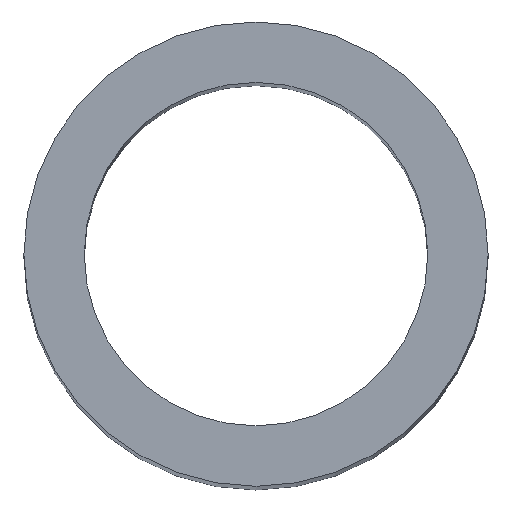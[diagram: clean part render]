
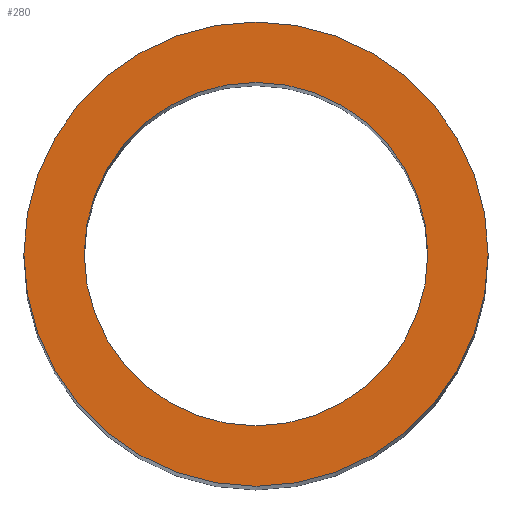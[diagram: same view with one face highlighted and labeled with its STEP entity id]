
A CAD part, top view. The second image highlights one B-rep face of the part: STEP entity #280.
In plain terms, the highlighted planar face has unit normal (0, 0, 1).
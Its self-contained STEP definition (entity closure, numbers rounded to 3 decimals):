
#1 = PLANE ( 'NONE',  #2 ) ;
#2 = AXIS2_PLACEMENT_3D ( 'NONE', #63, #62, #61 ) ;
#3 = FACE_OUTER_BOUND ( 'NONE', #272, .T. ) ;
#4 = FACE_BOUND ( 'NONE', #281, .T. ) ;
#5 = DIRECTION ( 'NONE',  ( 1., 0., 0. ) ) ;
#6 = DIRECTION ( 'NONE',  ( 0., 0., 1. ) ) ;
#7 = CARTESIAN_POINT ( 'NONE',  ( 0., 0., 0. ) ) ;
#8 = AXIS2_PLACEMENT_3D ( 'NONE', #7, #6, #5 ) ;
#9 = CIRCLE ( 'NONE', #8, 16.3 ) ;
#22 = DIRECTION ( 'NONE',  ( 1., 0., 0. ) ) ;
#23 = DIRECTION ( 'NONE',  ( 0., 0., 1. ) ) ;
#24 = CARTESIAN_POINT ( 'NONE',  ( 0., 0., 0. ) ) ;
#25 = AXIS2_PLACEMENT_3D ( 'NONE', #24, #23, #22 ) ;
#26 = CIRCLE ( 'NONE', #25, 16.3 ) ;
#27 = CARTESIAN_POINT ( 'NONE',  ( 16.3, 0., 0. ) ) ;
#61 = DIRECTION ( 'NONE',  ( -1., 0., 0. ) ) ;
#62 = DIRECTION ( 'NONE',  ( 0., 0., -1. ) ) ;
#63 = CARTESIAN_POINT ( 'NONE',  ( 0., 16.3, 0. ) ) ;
#65 = DIRECTION ( 'NONE',  ( 0., 1., 0. ) ) ;
#66 = DIRECTION ( 'NONE',  ( 0., 0., -1. ) ) ;
#67 = CARTESIAN_POINT ( 'NONE',  ( 0., 0., 0. ) ) ;
#68 = AXIS2_PLACEMENT_3D ( 'NONE', #67, #66, #65 ) ;
#69 = CIRCLE ( 'NONE', #68, 12.058 ) ;
#239 = VERTEX_POINT ( 'NONE', #366 ) ;
#240 = VERTEX_POINT ( 'NONE', #373 ) ;
#247 = VERTEX_POINT ( 'NONE', #395 ) ;
#253 = EDGE_CURVE ( 'NONE', #239, #240, #399, .T. ) ;
#258 = VERTEX_POINT ( 'NONE', #27 ) ;
#267 = EDGE_CURVE ( 'NONE', #258, #247, #26, .T. ) ;
#270 = ORIENTED_EDGE ( 'NONE', *, *, #314, .T. ) ;
#271 = ORIENTED_EDGE ( 'NONE', *, *, #253, .T. ) ;
#272 = EDGE_LOOP ( 'NONE', ( #334, #329 ) ) ;
#279 = EDGE_CURVE ( 'NONE', #247, #258, #9, .T. ) ;
#280 = ADVANCED_FACE ( 'NONE', ( #4, #3 ), #1, .F. ) ;
#281 = EDGE_LOOP ( 'NONE', ( #270, #271 ) ) ;
#314 = EDGE_CURVE ( 'NONE', #240, #239, #69, .T. ) ;
#329 = ORIENTED_EDGE ( 'NONE', *, *, #279, .T. ) ;
#334 = ORIENTED_EDGE ( 'NONE', *, *, #267, .T. ) ;
#366 = CARTESIAN_POINT ( 'NONE',  ( 0., -12.058, 0. ) ) ;
#373 = CARTESIAN_POINT ( 'NONE',  ( 0., 12.058, 0. ) ) ;
#395 = CARTESIAN_POINT ( 'NONE',  ( -16.3, 0., 0. ) ) ;
#399 = CIRCLE ( 'NONE', #406, 12.058 ) ;
#404 = DIRECTION ( 'NONE',  ( 0., 1., 0. ) ) ;
#405 = CARTESIAN_POINT ( 'NONE',  ( 0., 0., 0. ) ) ;
#406 = AXIS2_PLACEMENT_3D ( 'NONE', #405, #407, #404 ) ;
#407 = DIRECTION ( 'NONE',  ( 0., 0., -1. ) ) ;
